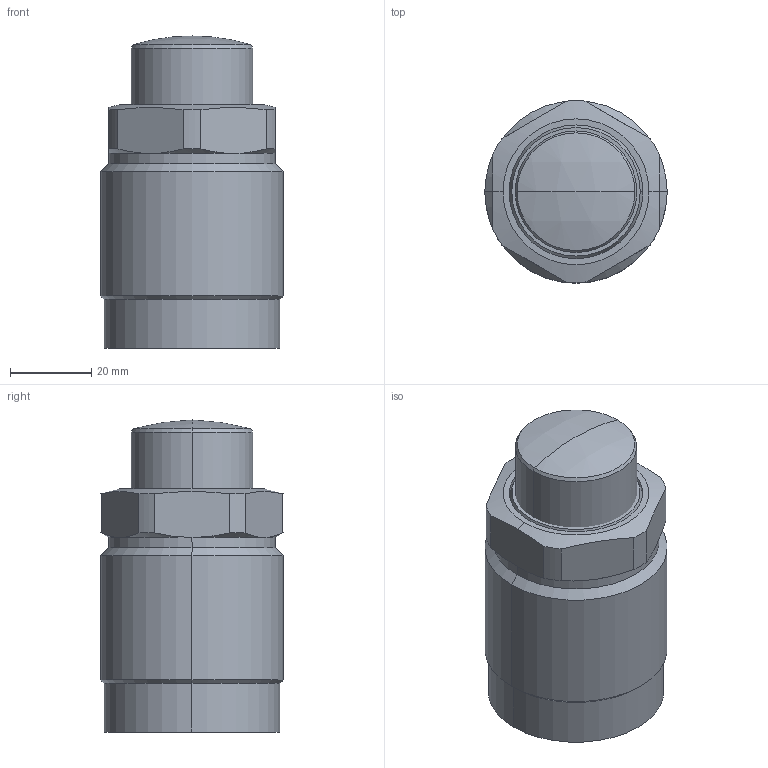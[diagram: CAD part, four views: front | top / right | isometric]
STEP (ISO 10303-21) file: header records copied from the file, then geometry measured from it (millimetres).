
FILE_DESCRIPTION (( 'STEP AP203' ), '1' );
FILE_NAME ('650451-RM.step', '2016-11-02T03:14:47', ( 'wxp' ), ( '' ), 'SwSTEP 2.0', 'SolidWorks 2011', '' );
FILE_SCHEMA (( 'CONFIG_CONTROL_DESIGN' ));
Length unit declared in the file: millimetre
Products named in the file (3): 650451-RM; 葩璃 650451-RM.sldasm-Part-2^650451-RM; 葩璃 650451-RM.sldasm-Part-1^650451-RM
Assembly tree (2 placements, depth 2):
  650451-RM
    葩璃 650451-RM.sldasm-Part-1^650451-RM
    葩璃 650451-RM.sldasm-Part-2^650451-RM
Bounding box: 45 x 45 x 77 mm (x, y, z)
Volume: 102732.3 mm3; surface area: 15607.6 mm2
Topology: 2 solids, 2 shells, 63 faces, 138 edges, 84 vertices
Faces by surface type: cylinder 26, plane 15, cone 14, torus 6, sphere 2
Entity records: 2113 total; most frequent: CARTESIAN_POINT 404, DIRECTION 330, ORIENTED_EDGE 272, AXIS2_PLACEMENT_3D 142, EDGE_CURVE 136, VERTEX_POINT 84, CIRCLE 74, EDGE_LOOP 70
